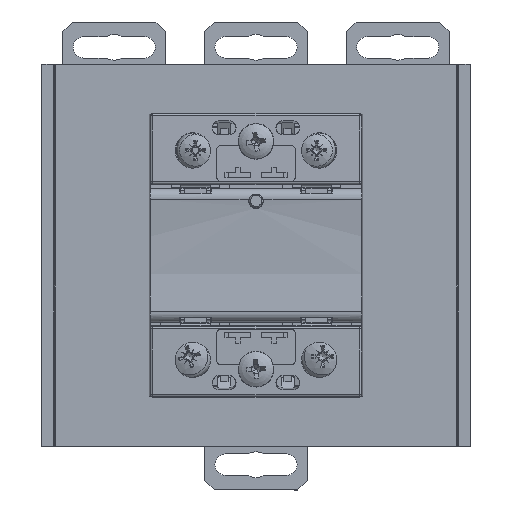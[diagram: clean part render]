
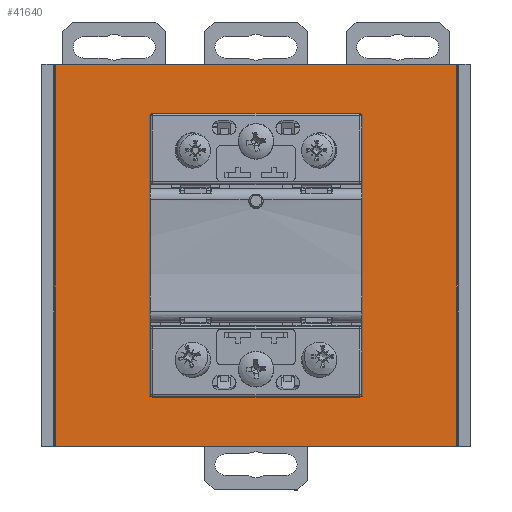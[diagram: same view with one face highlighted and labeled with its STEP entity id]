
A CAD part, top view. The second image highlights one B-rep face of the part: STEP entity #41640.
In plain terms, the highlighted planar face has unit normal (0, 0, 1) as drawn and (0, 1, 0) by its records, which use the part's own axes.
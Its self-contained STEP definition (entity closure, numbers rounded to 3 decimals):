
#1106=FACE_BOUND('',#6074,.T.);
#1107=FACE_BOUND('',#6075,.T.);
#2083=PLANE('',#45176);
#3897=FACE_OUTER_BOUND('',#6073,.T.);
#6073=EDGE_LOOP('',(#35134,#35135,#35136,#35137));
#6074=EDGE_LOOP('',(#35138,#35139));
#6075=EDGE_LOOP('',(#35140,#35141));
#7662=CIRCLE('',#44863,1.621);
#7663=CIRCLE('',#44864,1.621);
#7666=CIRCLE('',#44869,1.621);
#7667=CIRCLE('',#44870,1.621);
#11182=LINE('',#74727,#15080);
#11184=LINE('',#74731,#15082);
#11185=LINE('',#74733,#15083);
#11186=LINE('',#74734,#15084);
#15080=VECTOR('',#54639,1.);
#15082=VECTOR('',#54643,1.);
#15083=VECTOR('',#54644,1.);
#15084=VECTOR('',#54645,1.);
#18736=VERTEX_POINT('',#73742);
#18737=VERTEX_POINT('',#73743);
#18741=VERTEX_POINT('',#73755);
#18742=VERTEX_POINT('',#73756);
#19065=VERTEX_POINT('',#74724);
#19066=VERTEX_POINT('',#74726);
#19067=VERTEX_POINT('',#74730);
#19068=VERTEX_POINT('',#74732);
#24199=EDGE_CURVE('',#18736,#18737,#7662,.T.);
#24200=EDGE_CURVE('',#18737,#18736,#7663,.T.);
#24205=EDGE_CURVE('',#18741,#18742,#7666,.T.);
#24206=EDGE_CURVE('',#18742,#18741,#7667,.T.);
#24690=EDGE_CURVE('',#19066,#19065,#11182,.T.);
#24692=EDGE_CURVE('',#19065,#19067,#11184,.T.);
#24693=EDGE_CURVE('',#19068,#19067,#11185,.T.);
#24694=EDGE_CURVE('',#19068,#19066,#11186,.T.);
#35134=ORIENTED_EDGE('',*,*,#24692,.T.);
#35135=ORIENTED_EDGE('',*,*,#24693,.F.);
#35136=ORIENTED_EDGE('',*,*,#24694,.T.);
#35137=ORIENTED_EDGE('',*,*,#24690,.T.);
#35138=ORIENTED_EDGE('',*,*,#24199,.T.);
#35139=ORIENTED_EDGE('',*,*,#24200,.T.);
#35140=ORIENTED_EDGE('',*,*,#24205,.T.);
#35141=ORIENTED_EDGE('',*,*,#24206,.T.);
#41640=ADVANCED_FACE('',(#3897,#1106,#1107),#2083,.T.);
#44863=AXIS2_PLACEMENT_3D('',#73744,#53672,#53673);
#44864=AXIS2_PLACEMENT_3D('',#73745,#53674,#53675);
#44869=AXIS2_PLACEMENT_3D('',#73757,#53686,#53687);
#44870=AXIS2_PLACEMENT_3D('',#73758,#53688,#53689);
#45176=AXIS2_PLACEMENT_3D('',#74729,#54641,#54642);
#53672=DIRECTION('center_axis',(0.,-1.,0.));
#53673=DIRECTION('ref_axis',(1.,0.,0.));
#53674=DIRECTION('center_axis',(0.,-1.,0.));
#53675=DIRECTION('ref_axis',(1.,0.,0.));
#53686=DIRECTION('center_axis',(0.,-1.,0.));
#53687=DIRECTION('ref_axis',(1.,0.,0.));
#53688=DIRECTION('center_axis',(0.,-1.,0.));
#53689=DIRECTION('ref_axis',(1.,0.,0.));
#54639=DIRECTION('',(0.,0.,1.));
#54641=DIRECTION('center_axis',(0.,1.,0.));
#54642=DIRECTION('ref_axis',(0.,0.,1.));
#54643=DIRECTION('',(1.,0.,0.));
#54644=DIRECTION('',(0.,0.,1.));
#54645=DIRECTION('',(-1.,0.,0.));
#73742=CARTESIAN_POINT('',(415.964,284.187,63.8));
#73743=CARTESIAN_POINT('',(412.722,284.187,63.8));
#73744=CARTESIAN_POINT('Origin',(414.343,284.187,63.8));
#73745=CARTESIAN_POINT('Origin',(414.343,284.187,63.8));
#73755=CARTESIAN_POINT('',(415.964,284.187,16.2));
#73756=CARTESIAN_POINT('',(412.722,284.187,16.2));
#73757=CARTESIAN_POINT('Origin',(414.343,284.187,16.2));
#73758=CARTESIAN_POINT('Origin',(414.343,284.187,16.2));
#74724=CARTESIAN_POINT('',(372.296,284.187,80.));
#74726=CARTESIAN_POINT('',(372.296,284.187,0.));
#74727=CARTESIAN_POINT('',(372.296,284.187,0.));
#74729=CARTESIAN_POINT('Origin',(372.296,284.187,0.));
#74730=CARTESIAN_POINT('',(456.389,284.187,80.));
#74731=CARTESIAN_POINT('',(456.389,284.187,80.));
#74732=CARTESIAN_POINT('',(456.389,284.187,0.));
#74733=CARTESIAN_POINT('',(456.389,284.187,0.));
#74734=CARTESIAN_POINT('',(456.389,284.187,0.));
